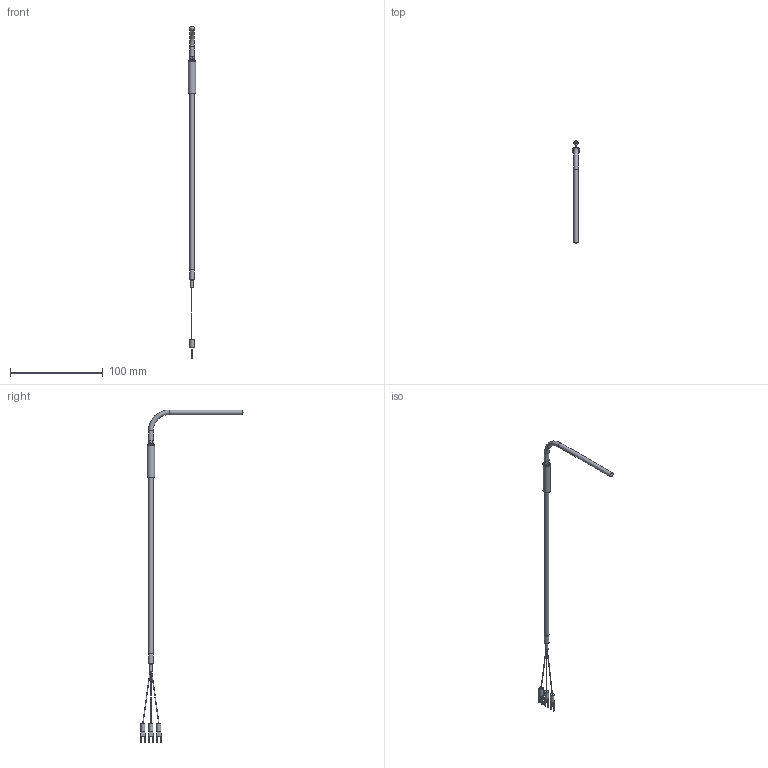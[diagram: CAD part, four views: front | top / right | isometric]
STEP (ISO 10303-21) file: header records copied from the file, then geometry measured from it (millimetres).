
FILE_DESCRIPTION (( 'STEP AP203' ), '1' );
FILE_NAME ('YIR111-5(0).STEP', '2024-10-30T04:19:31', ( '' ), ( '' ), 'SwSTEP 2.0', 'SolidWorks 2021', '' );
FILE_SCHEMA (( 'CONFIG_CONTROL_DESIGN' ));
Length unit declared in the file: millimetre
Products named in the file (1): YIR111-5(0)
Bounding box: 8 x 111.48 x 357.22 mm (x, y, z)
Volume: 8526.5 mm3; surface area: 7130.1 mm2
Topology: 1 solids, 1 shells, 91 faces, 222 edges, 145 vertices
Faces by surface type: plane 47, cylinder 31, bspline 8, cone 3, torus 2
Full cylindrical faces by diameter (mm): 0.5 x1, 3.16 x1, 4.5 x3, 4.8 x1, 5 x3, 8 x1
Entity records: 2817 total; most frequent: CARTESIAN_POINT 680, DIRECTION 424, ORIENTED_EDGE 400, EDGE_CURVE 200, AXIS2_PLACEMENT_3D 152, VERTEX_POINT 140, EDGE_LOOP 120, VECTOR 120
